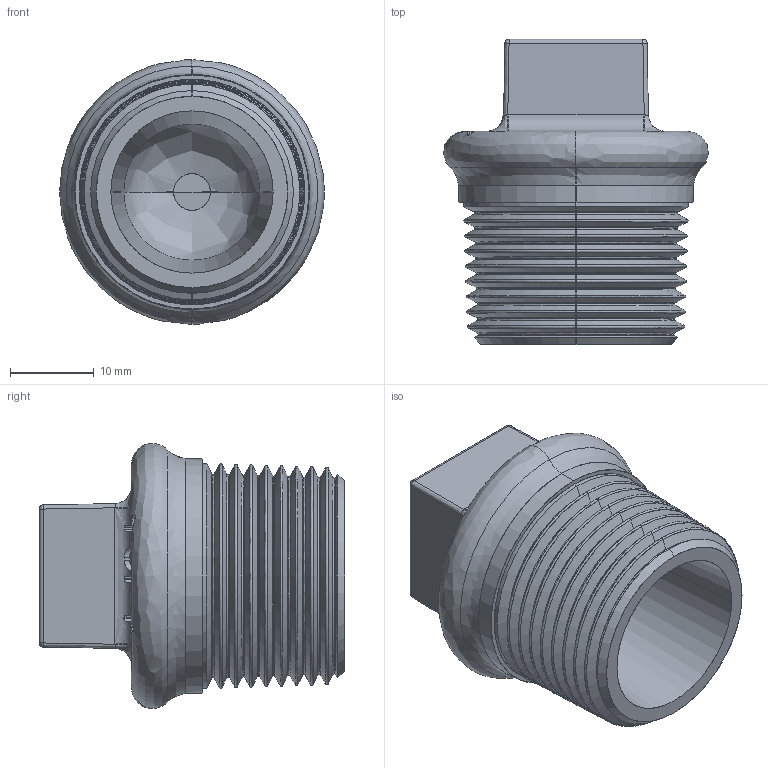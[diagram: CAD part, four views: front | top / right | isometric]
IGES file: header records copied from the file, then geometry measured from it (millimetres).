
Start section: SolidWorks IGES file using analytic representation for surfaces
Global section: file name: C:\Users\Joel Rosa\Desktop\Tubulação\12-03-OK\12-03-006.IGS; native system: SolidWorks 2011; preprocessor: SolidWorks 2011; author: Joel Rosa; date: 121203.234612; units: millimetre
Bounding box: 31.68 x 36.5 x 31.7 mm (x, y, z)
Surface area: 6125.6 mm2 (no closed solid volume)
Topology: 0 solids, 0 shells, 255 faces, 2288 edges, 2286 vertices
Faces by surface type: bspline 192, revolution 63
